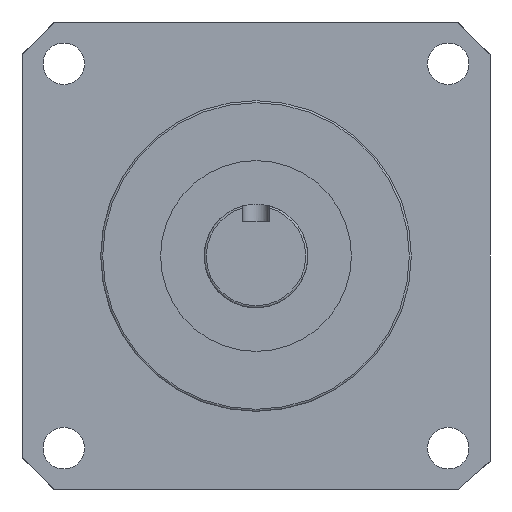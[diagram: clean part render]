
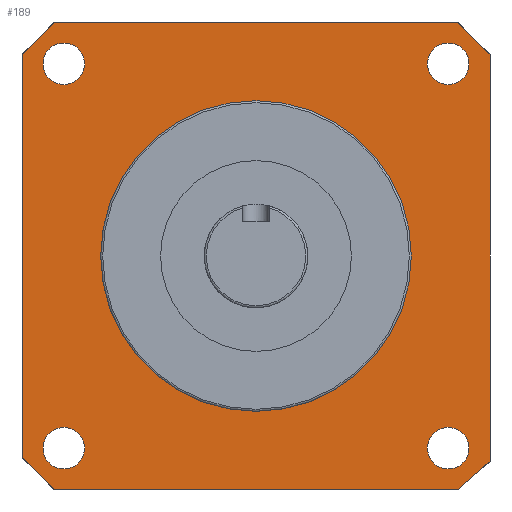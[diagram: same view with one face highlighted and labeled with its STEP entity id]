
A CAD part, front view. The second image highlights one B-rep face of the part: STEP entity #189.
In plain terms, the highlighted planar face has unit normal (0, -1, 0).
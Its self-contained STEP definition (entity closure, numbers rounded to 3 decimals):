
#189 = ADVANCED_FACE( '', ( #437, #438, #439, #440, #441, #442 ), #443, .T. );
#437 = FACE_BOUND( '', #815, .T. );
#438 = FACE_BOUND( '', #816, .T. );
#439 = FACE_OUTER_BOUND( '', #817, .T. );
#440 = FACE_BOUND( '', #818, .T. );
#441 = FACE_BOUND( '', #819, .T. );
#442 = FACE_BOUND( '', #820, .T. );
#443 = PLANE( '', #821 );
#815 = EDGE_LOOP( '', ( #1233 ) );
#816 = EDGE_LOOP( '', ( #1234 ) );
#817 = EDGE_LOOP( '', ( #1235, #1236, #1237, #1238, #1239, #1240, #1241, #1242 ) );
#818 = EDGE_LOOP( '', ( #1243 ) );
#819 = EDGE_LOOP( '', ( #1244 ) );
#820 = EDGE_LOOP( '', ( #1245 ) );
#821 = AXIS2_PLACEMENT_3D( '', #1246, #1247, #1248 );
#1233 = ORIENTED_EDGE( '', *, *, #1929, .T. );
#1234 = ORIENTED_EDGE( '', *, *, #1930, .T. );
#1235 = ORIENTED_EDGE( '', *, *, #1931, .T. );
#1236 = ORIENTED_EDGE( '', *, *, #1932, .T. );
#1237 = ORIENTED_EDGE( '', *, *, #1933, .T. );
#1238 = ORIENTED_EDGE( '', *, *, #1934, .T. );
#1239 = ORIENTED_EDGE( '', *, *, #1935, .T. );
#1240 = ORIENTED_EDGE( '', *, *, #1936, .F. );
#1241 = ORIENTED_EDGE( '', *, *, #1924, .T. );
#1242 = ORIENTED_EDGE( '', *, *, #1937, .F. );
#1243 = ORIENTED_EDGE( '', *, *, #1938, .F. );
#1244 = ORIENTED_EDGE( '', *, *, #1915, .T. );
#1245 = ORIENTED_EDGE( '', *, *, #1939, .T. );
#1246 = CARTESIAN_POINT( '', ( 28.704, -108., 28.675 ) );
#1247 = DIRECTION( '', ( 0., -1., 0. ) );
#1248 = DIRECTION( '', ( 0., 0., -1. ) );
#1915 = EDGE_CURVE( '', #2224, #2224, #2225, .T. );
#1924 = EDGE_CURVE( '', #2233, #2237, #2239, .T. );
#1929 = EDGE_CURVE( '', #2246, #2246, #2247, .T. );
#1930 = EDGE_CURVE( '', #2248, #2248, #2249, .T. );
#1931 = EDGE_CURVE( '', #2250, #2251, #2252, .T. );
#1932 = EDGE_CURVE( '', #2251, #2253, #2254, .T. );
#1933 = EDGE_CURVE( '', #2253, #2255, #2256, .T. );
#1934 = EDGE_CURVE( '', #2255, #2257, #2258, .T. );
#1935 = EDGE_CURVE( '', #2257, #2259, #2260, .T. );
#1936 = EDGE_CURVE( '', #2233, #2259, #2261, .T. );
#1937 = EDGE_CURVE( '', #2250, #2237, #2262, .T. );
#1938 = EDGE_CURVE( '', #2263, #2263, #2264, .T. );
#1939 = EDGE_CURVE( '', #2265, #2265, #2266, .T. );
#2224 = VERTEX_POINT( '', #2662 );
#2225 = CIRCLE( '', #2663, 2.55 );
#2233 = VERTEX_POINT( '', #2673 );
#2237 = VERTEX_POINT( '', #2679 );
#2239 = LINE( '', #2682, #2683 );
#2246 = VERTEX_POINT( '', #2731 );
#2247 = CIRCLE( '', #2732, 2.55 );
#2248 = VERTEX_POINT( '', #2733 );
#2249 = CIRCLE( '', #2734, 2.55 );
#2250 = VERTEX_POINT( '', #2735 );
#2251 = VERTEX_POINT( '', #2736 );
#2252 = LINE( '', #2737, #2738 );
#2253 = VERTEX_POINT( '', #2739 );
#2254 = LINE( '', #2740, #2741 );
#2255 = VERTEX_POINT( '', #2742 );
#2256 = LINE( '', #2743, #2744 );
#2257 = VERTEX_POINT( '', #2745 );
#2258 = LINE( '', #2746, #2747 );
#2259 = VERTEX_POINT( '', #2748 );
#2260 = LINE( '', #2749, #2750 );
#2261 = LINE( '', #2751, #2752 );
#2262 = LINE( '', #2753, #2754 );
#2263 = VERTEX_POINT( '', #2755 );
#2264 = CIRCLE( '', #2756, 19.05 );
#2265 = VERTEX_POINT( '', #2757 );
#2266 = CIRCLE( '', #2758, 2.55 );
#2662 = CARTESIAN_POINT( '', ( -21.018, -108., 23.547 ) );
#2663 = AXIS2_PLACEMENT_3D( '', #3355, #3356, #3357 );
#2673 = CARTESIAN_POINT( '', ( 24.704, -108., 28.675 ) );
#2679 = CARTESIAN_POINT( '', ( -24.696, -108., 28.675 ) );
#2682 = CARTESIAN_POINT( '', ( 28.704, -108., 28.675 ) );
#2683 = VECTOR( '', #3366, 1000. );
#2731 = CARTESIAN_POINT( '', ( -21.018, -108., -23.596 ) );
#2732 = AXIS2_PLACEMENT_3D( '', #3370, #3371, #3372 );
#2733 = CARTESIAN_POINT( '', ( 26.125, -108., 23.547 ) );
#2734 = AXIS2_PLACEMENT_3D( '', #3373, #3374, #3375 );
#2735 = CARTESIAN_POINT( '', ( -28.696, -108., 24.675 ) );
#2736 = CARTESIAN_POINT( '', ( -28.696, -108., -24.725 ) );
#2737 = CARTESIAN_POINT( '', ( -28.696, -108., 28.675 ) );
#2738 = VECTOR( '', #3376, 1000. );
#2739 = CARTESIAN_POINT( '', ( -24.696, -108., -28.725 ) );
#2740 = CARTESIAN_POINT( '', ( -28.696, -108., -24.725 ) );
#2741 = VECTOR( '', #3377, 1000. );
#2742 = CARTESIAN_POINT( '', ( 24.704, -108., -28.725 ) );
#2743 = CARTESIAN_POINT( '', ( -28.696, -108., -28.725 ) );
#2744 = VECTOR( '', #3378, 1000. );
#2745 = CARTESIAN_POINT( '', ( 28.704, -108., -25.217 ) );
#2746 = CARTESIAN_POINT( '', ( 24.704, -108., -28.725 ) );
#2747 = VECTOR( '', #3379, 1000. );
#2748 = CARTESIAN_POINT( '', ( 28.704, -108., 24.675 ) );
#2749 = CARTESIAN_POINT( '', ( 28.704, -108., -28.725 ) );
#2750 = VECTOR( '', #3380, 1000. );
#2751 = CARTESIAN_POINT( '', ( 24.704, -108., 28.675 ) );
#2752 = VECTOR( '', #3381, 1000. );
#2753 = CARTESIAN_POINT( '', ( -28.696, -108., 24.675 ) );
#2754 = VECTOR( '', #3382, 1000. );
#2755 = CARTESIAN_POINT( '', ( 0.004, -108., -19.075 ) );
#2756 = AXIS2_PLACEMENT_3D( '', #3383, #3384, #3385 );
#2757 = CARTESIAN_POINT( '', ( 26.125, -108., -23.596 ) );
#2758 = AXIS2_PLACEMENT_3D( '', #3386, #3387, #3388 );
#3355 = CARTESIAN_POINT( '', ( -23.568, -108., 23.547 ) );
#3356 = DIRECTION( '', ( 0., 1., 0. ) );
#3357 = DIRECTION( '', ( 1., 0., 0. ) );
#3366 = DIRECTION( '', ( -1., 0., 0. ) );
#3370 = CARTESIAN_POINT( '', ( -23.568, -108., -23.596 ) );
#3371 = DIRECTION( '', ( 0., 1., 0. ) );
#3372 = DIRECTION( '', ( 1., 0., 0. ) );
#3373 = CARTESIAN_POINT( '', ( 23.575, -108., 23.547 ) );
#3374 = DIRECTION( '', ( 0., 1., 0. ) );
#3375 = DIRECTION( '', ( 1., 0., 0. ) );
#3376 = DIRECTION( '', ( 0., 0., -1. ) );
#3377 = DIRECTION( '', ( 0.707, 0., -0.707 ) );
#3378 = DIRECTION( '', ( 1., 0., 0. ) );
#3379 = DIRECTION( '', ( 0.752, 0., 0.659 ) );
#3380 = DIRECTION( '', ( 0., 0., 1. ) );
#3381 = DIRECTION( '', ( 0.707, 0., -0.707 ) );
#3382 = DIRECTION( '', ( 0.707, 0., 0.707 ) );
#3383 = CARTESIAN_POINT( '', ( 0.004, -108., -0.025 ) );
#3384 = DIRECTION( '', ( 0., -1., 0. ) );
#3385 = DIRECTION( '', ( 0., 0., -1. ) );
#3386 = CARTESIAN_POINT( '', ( 23.575, -108., -23.596 ) );
#3387 = DIRECTION( '', ( 0., 1., 0. ) );
#3388 = DIRECTION( '', ( 1., 0., 0. ) );
